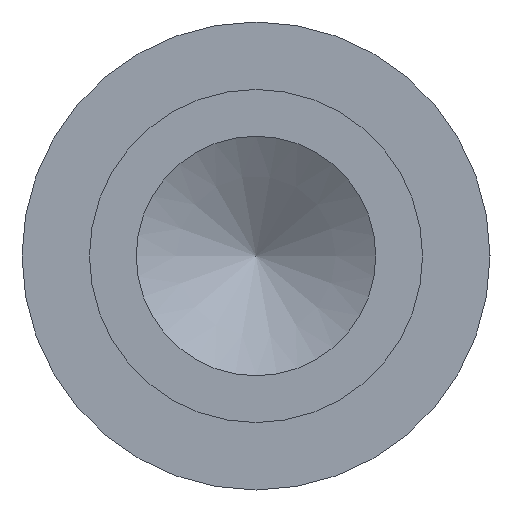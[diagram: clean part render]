
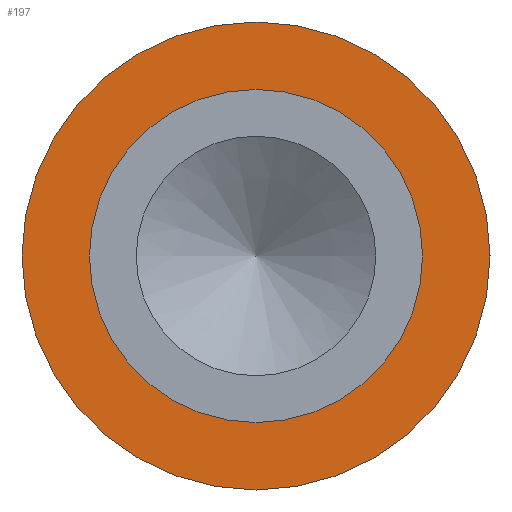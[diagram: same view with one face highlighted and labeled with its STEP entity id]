
A CAD part, left-side view. The second image highlights one B-rep face of the part: STEP entity #197.
In plain terms, the highlighted planar face has unit normal (-1, 0, 0).
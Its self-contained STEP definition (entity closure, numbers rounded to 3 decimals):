
#13=PLANE($,#223);
#24=FACE_BOUND($,#73,.T.);
#55=FACE_OUTER_BOUND($,#72,.T.);
#72=EDGE_LOOP($,(#162));
#73=EDGE_LOOP($,(#163));
#105=CIRCLE($,#221,1.13);
#107=CIRCLE($,#224,1.588);
#123=VERTEX_POINT($,#337);
#125=VERTEX_POINT($,#342);
#141=EDGE_CURVE($,#123,#123,#105,.T.);
#143=EDGE_CURVE($,#125,#125,#107,.T.);
#162=ORIENTED_EDGE($,*,*,#143,.F.);
#163=ORIENTED_EDGE($,*,*,#141,.T.);
#197=ADVANCED_FACE($,(#55,#24),#13,.T.);
#221=AXIS2_PLACEMENT_3D($,#338,#265,#266);
#223=AXIS2_PLACEMENT_3D($,#341,#269,#270);
#224=AXIS2_PLACEMENT_3D($,#343,#271,#272);
#265=DIRECTION('center_axis',(1.,0.,0.));
#266=DIRECTION('ref_axis',(0.,1.,0.));
#269=DIRECTION('center_axis',(-1.,0.,0.));
#270=DIRECTION('ref_axis',(0.,0.,1.));
#271=DIRECTION('center_axis',(1.,0.,0.));
#272=DIRECTION('ref_axis',(0.,1.,0.));
#337=CARTESIAN_POINT('',(1.905,1.13,0.));
#338=CARTESIAN_POINT('Origin',(1.905,0.,0.));
#341=CARTESIAN_POINT('Origin',(1.905,1.359,0.));
#342=CARTESIAN_POINT('',(1.905,1.588,0.));
#343=CARTESIAN_POINT('Origin',(1.905,0.,0.));
